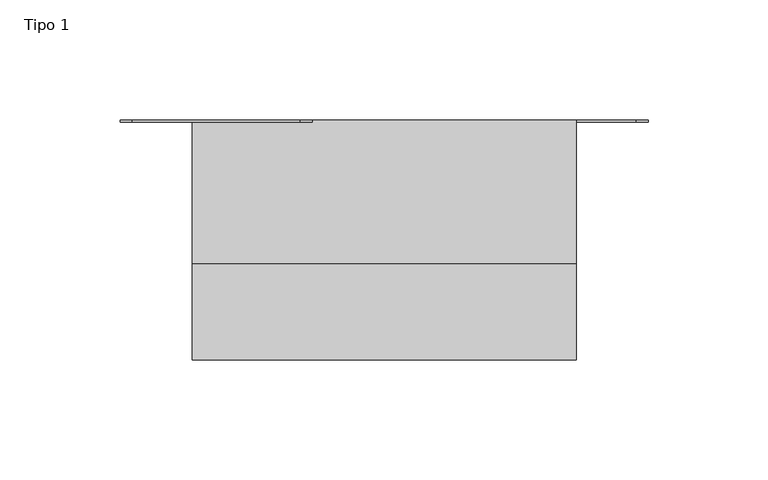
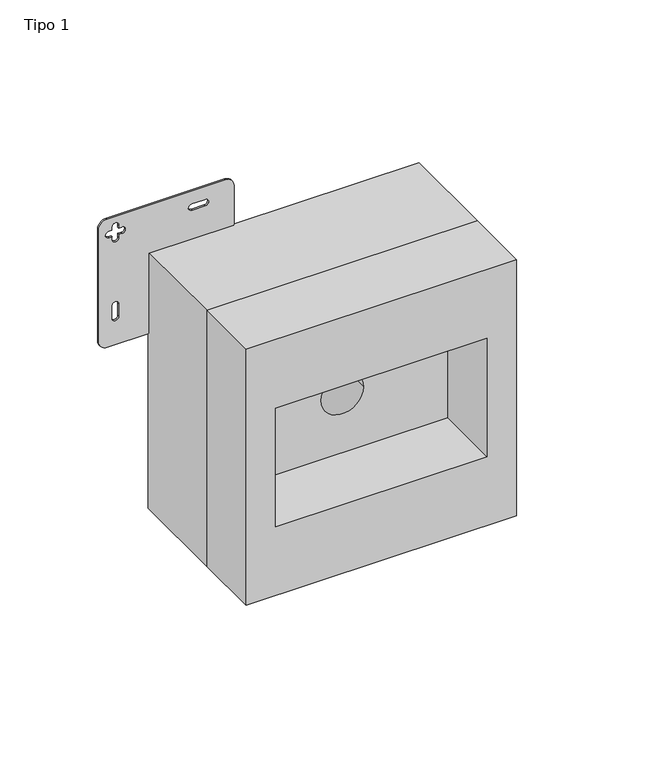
"""IFC4 building model written with IfcOpenShell, lengths in millimetres: proxy geometry, Zeus 504E : Tipo 1."""

import ifcopenshell
import ifcopenshell.guid

model = None  # the IFC model being written
_history = None  # IfcOwnerHistory: only IFC2X3 demands one
_inside = {}  # id of a spatial element -> (the spatial element, [elements in it])
_under = {}  # id of a project, library or spatial element -> (it, [spatial elements below it])
_declared = {}  # id of a project -> (the project, [libraries it declares])
_typed = {}  # id of a type object -> (the type object, [elements of that type])
_made_of = {}  # id of a material, layer set ... -> (it, [elements and type objects made of it])


def new_model(schema):
    """Start an empty IFC model of exactly this schema.

    Asked for "IFC4X3", IfcOpenShell would pick the latest addendum, in which some entities
    have other attributes; the version numbers below select the first issue.
    IFC2X3 requires an IfcOwnerHistory on every rooted entity: one is made here for all.
    """
    global model, _history
    if schema == "IFC4X3":
        model = ifcopenshell.file(schema_version=(4, 3, 0, 0))
    else:
        model = ifcopenshell.file(schema=schema)
    _inside.clear()
    _under.clear()
    _declared.clear()
    _typed.clear()
    _made_of.clear()
    _history = None
    if model.schema == "IFC2X3":
        org = make("IfcOrganization", Name="unknown")
        user = make(
            "IfcPersonAndOrganization",
            ThePerson=make("IfcPerson", FamilyName="unknown"),
            TheOrganization=org,
        )
        app = make(
            "IfcApplication",
            ApplicationDeveloper=org,
            Version="unknown",
            ApplicationFullName="unknown",
            ApplicationIdentifier="unknown",
        )
        _history = make(
            "IfcOwnerHistory",
            OwningUser=user,
            OwningApplication=app,
            ChangeAction="ADDED",
            CreationDate=0,
        )
    return model


def make(cls, **values):
    """One entity of the class cls with the attributes given. An attribute that is None is left unset."""
    return model.create_entity(
        cls, **{name: value for name, value in values.items() if value is not None}
    )


def rooted(cls, **values):
    """An entity with a GlobalId (a new one), such as an element, a storey or a relation."""
    return make(cls, GlobalId=ifcopenshell.guid.new(), OwnerHistory=_history, **values)


def si_unit(unit_type, name, prefix=None):
    """IfcSIUnit, for example si_unit("LENGTHUNIT", "METRE", prefix="MILLI")."""
    return make("IfcSIUnit", UnitType=unit_type, Prefix=prefix, Name=name)


def assignment(units):
    """IfcUnitAssignment: the units of a project."""
    return None if units is None else make("IfcUnitAssignment", Units=units)


def point(xyz):
    """IfcCartesianPoint."""
    return None if xyz is None else make("IfcCartesianPoint", Coordinates=xyz)


def direction(xyz):
    """IfcDirection."""
    return None if xyz is None else make("IfcDirection", DirectionRatios=xyz)


def frame(location, z_axis=None, x_axis=None):
    """IfcAxis2Placement3D, a coordinate frame: its origin and axes. An axis left out is left unset."""
    return make(
        "IfcAxis2Placement3D",
        Location=point(location),
        Axis=direction(z_axis),
        RefDirection=direction(x_axis),
    )


def frame_2d(location, x_axis=None):
    """IfcAxis2Placement2D, a coordinate frame in the plane: its origin and x axis."""
    return make(
        "IfcAxis2Placement2D", Location=point(location), RefDirection=direction(x_axis)
    )


def origin():
    """The frame at (0, 0, 0) with its axes left unset."""
    return frame((0.0, 0.0, 0.0))


def place(relative_to, where):
    """IfcLocalPlacement: puts the frame where relative to a parent placement (None: the world)."""
    return make(
        "IfcLocalPlacement", PlacementRelTo=relative_to, RelativePlacement=where
    )


def context(
    kind, dimensions, precision=None, world=None, true_north=None, identifier=None
):
    """IfcGeometricRepresentationContext, for example the 3D "Model" context."""
    return make(
        "IfcGeometricRepresentationContext",
        ContextIdentifier=identifier,
        ContextType=kind,
        CoordinateSpaceDimension=dimensions,
        Precision=precision,
        WorldCoordinateSystem=world,
        TrueNorth=true_north,
    )


def project(units=None, contexts=None):
    """IfcProject with its units and contexts."""
    return rooted(
        "IfcProject",
        Name="project",
        RepresentationContexts=contexts,
        UnitsInContext=assignment(units),
    )


def spatial(cls, under=None, at=None, **own):
    """A site, building, storey or space (cls), placed at a placement, below another one or the project."""
    s = rooted(cls, ObjectPlacement=at, **own)
    if under is not None:
        _under.setdefault(under.id(), (under, []))[1].append(s)
    return s


def polyline(points):
    """IfcPolyline through the points."""
    return make("IfcPolyline", Points=[point(p) for p in points])


def circle_curve(where, radius):
    """IfcCircle in the frame where."""
    return make("IfcCircle", Position=where, Radius=radius)


def trimmed(basis, trim1, trim2, sense, master):
    """IfcTrimmedCurve: the piece of a basis curve between two trims."""
    return make(
        "IfcTrimmedCurve",
        BasisCurve=basis,
        Trim1=trim1,
        Trim2=trim2,
        SenseAgreement=sense,
        MasterRepresentation=master,
    )


def segment(curve, same_sense, transition):
    """IfcCompositeCurveSegment."""
    return make(
        "IfcCompositeCurveSegment",
        Transition=transition,
        SameSense=same_sense,
        ParentCurve=curve,
    )


def composite_curve(segments, self_intersect=None):
    """IfcCompositeCurve: segments joined end to end."""
    return make("IfcCompositeCurve", Segments=segments, SelfIntersect=self_intersect)


def outline(outer, holes=None, kind="AREA"):
    """IfcArbitraryClosedProfileDef: a profile drawn as a closed curve; with holes, ...WithVoids."""
    if holes is None:
        return make("IfcArbitraryClosedProfileDef", ProfileType=kind, OuterCurve=outer)
    return make(
        "IfcArbitraryProfileDefWithVoids",
        ProfileType=kind,
        OuterCurve=outer,
        InnerCurves=holes,
    )


def extrude(swept, where, along, depth):
    """IfcExtrudedAreaSolid: the profile swept, set in the frame where, extruded along a direction by depth."""
    return make(
        "IfcExtrudedAreaSolid",
        SweptArea=swept,
        Position=where,
        ExtrudedDirection=direction(along),
        Depth=depth,
    )


def shape(context_of_items, identifier, shape_type, items):
    """IfcShapeRepresentation: the items that make up one representation, for example the "Body"."""
    return make(
        "IfcShapeRepresentation",
        ContextOfItems=context_of_items,
        RepresentationIdentifier=identifier,
        RepresentationType=shape_type,
        Items=items,
    )


def source(mapping_origin, context_of_items, identifier, shape_type, items):
    """IfcRepresentationMap: a shape defined once, which mapped items show again and again."""
    return make(
        "IfcRepresentationMap",
        MappingOrigin=mapping_origin,
        MappedRepresentation=shape(context_of_items, identifier, shape_type, items),
    )


def transform(
    local_origin,
    x_axis=None,
    y_axis=None,
    z_axis=None,
    scale=None,
    scale2=None,
    scale3=None,
    uniform=True,
):
    """IfcCartesianTransformationOperator3D, or its non-uniform kind. x_axis, y_axis, z_axis: its Axis1, 2, 3."""
    if uniform:
        return make(
            "IfcCartesianTransformationOperator3D",
            Axis1=direction(x_axis),
            Axis2=direction(y_axis),
            LocalOrigin=point(local_origin),
            Scale=scale,
            Axis3=direction(z_axis),
        )
    return make(
        "IfcCartesianTransformationOperator3DnonUniform",
        Axis1=direction(x_axis),
        Axis2=direction(y_axis),
        LocalOrigin=point(local_origin),
        Scale=scale,
        Axis3=direction(z_axis),
        Scale2=scale2,
        Scale3=scale3,
    )


def mapped(mapping_source, mapping_target):
    """IfcMappedItem: shows the shape of a source again, moved by a transform."""
    return make(
        "IfcMappedItem", MappingSource=mapping_source, MappingTarget=mapping_target
    )


def made_of(thing, what):
    """Note that an element or type object is made of a material, layer set ...; save() writes the relation."""
    if what is not None:
        _made_of.setdefault(what.id(), (what, []))[1].append(thing)
    return thing


def element(
    cls,
    number,
    at=None,
    inside=None,
    cuts=None,
    type_object=None,
    material=None,
    context=None,
    identifier="Body",
    shape_type=None,
    held_by="IfcProductDefinitionShape",
    body=None,
    shapes=None,
    **own,
):
    """One element of the class cls, such as IfcWall. Its Tag is "e" and its number.

    at: its placement. inside: the storey or other place that contains it. cuts: it is an
    opening in that element (IfcRelVoidsElement). A single representation is given by context,
    identifier, shape_type and body (its items); several are given by shapes. held_by: the class
    of the entity that holds the representations. save() writes the other relations.
    """
    e = rooted(cls, Tag="e%d" % number, ObjectPlacement=at, **own)
    if body is not None:
        shapes = [shape(context, identifier, shape_type, body)]
    if shapes is not None:
        e.Representation = make(held_by, Representations=shapes)
    if inside is not None:
        _inside.setdefault(inside.id(), (inside, []))[1].append(e)
    if cuts is not None:
        rooted(
            "IfcRelVoidsElement", RelatingBuildingElement=cuts, RelatedOpeningElement=e
        )
    if type_object is not None:
        _typed.setdefault(type_object.id(), (type_object, []))[1].append(e)
    return made_of(e, material)


def aggregate(whole, parts):
    """IfcRelAggregates: a whole, such as a stair, and the parts it consists of."""
    return rooted("IfcRelAggregates", RelatingObject=whole, RelatedObjects=parts)


def save(model, path):
    """Write the relations noted so far, then the file.

    IfcRelAggregates (storeys below a building ...), IfcRelContainedInSpatialStructure (elements
    in a storey), IfcRelDefinesByType, IfcRelAssociatesMaterial and IfcRelDeclares: one each for
    every whole, place, type object, material and project.
    """
    for whole, parts in _under.values():
        aggregate(whole, parts)
    for where, things in _inside.values():
        rooted(
            "IfcRelContainedInSpatialStructure",
            RelatedElements=things,
            RelatingStructure=where,
        )
    for kind, things in _typed.values():
        rooted("IfcRelDefinesByType", RelatedObjects=things, RelatingType=kind)
    for what, things in _made_of.values():
        rooted("IfcRelAssociatesMaterial", RelatedObjects=things, RelatingMaterial=what)
    for by, libraries in _declared.values():
        rooted("IfcRelDeclares", RelatingContext=by, RelatedDefinitions=libraries)
    model.write(path)


def plane_surface(at):
    """IfcPlane: the flat surface through the origin of the frame at, square to its z axis."""
    return make("IfcPlane", Position=at)


def revolved_surface(curve, axis_point, axis_direction):
    """IfcSurfaceOfRevolution: the curve turned about the line through axis_point along axis_direction."""
    return make(
        "IfcSurfaceOfRevolution",
        SweptCurve=make("IfcArbitraryOpenProfileDef", ProfileType="CURVE", Curve=curve),
        AxisPosition=make("IfcAxis1Placement", Location=point(axis_point), Axis=direction(axis_direction)),
    )


def advanced_brep(points, edges, surfaces, faces):
    """IfcAdvancedBrep: a solid bounded by faces that lie on surfaces and meet in shared edges.

    An edge is (start, end): straight between two places in points (the first is 0);
    or (start, end, curve); or (start, end, curve, False) where it runs against its curve.
    A face is (place in surfaces, loops), or (place, loops, False) where it looks against
    its surface's normal. A loop lists edges by number (the first is 1), with a minus sign
    where the edge is run from its end to its start. The first loop is the outer one.
    """
    corners = [point(p) for p in points]
    vertices = [make("IfcVertexPoint", VertexGeometry=c) for c in corners]
    made = []
    for start, end, *more in edges:
        made.append(
            make(
                "IfcEdgeCurve",
                EdgeStart=vertices[start],
                EdgeEnd=vertices[end],
                EdgeGeometry=more[0] if more else make("IfcPolyline", Points=[corners[start], corners[end]]),
                SameSense=more[1] if len(more) > 1 else True,
            )
        )
    hull = []
    for where, loops, *sense in faces:
        bounds = []
        for j, loop in enumerate(loops):
            ring = [make("IfcOrientedEdge", EdgeElement=made[abs(k) - 1], Orientation=k > 0) for k in loop]
            bounds.append(
                make(
                    "IfcFaceOuterBound" if j == 0 else "IfcFaceBound",
                    Bound=make("IfcEdgeLoop", EdgeList=ring),
                    Orientation=True,
                )
            )
        hull.append(make("IfcAdvancedFace", Bounds=bounds, FaceSurface=surfaces[where], SameSense=sense[0] if sense else True))
    return make("IfcAdvancedBrep", Outer=make("IfcClosedShell", CfsFaces=hull))


def tipo_1_560bc752(model_context):
    return source(origin(), model_context, "Body", "SolidModel", [
        extrude(outline(polyline([(789.7029033, 205.0), (789.7029033, 45.0), (629.7029033, 45.0), (629.7029033, 205.0), (789.7029033, 205.0)]), holes=[polyline([(746.7029033, 62.5), (746.7029033, 187.5), (672.7029033, 187.5), (672.7029033, 62.5), (746.7029033, 62.5)])]), frame((0.0, -175.0, 0.0), z_axis=(0.0, 1.0, 0.0), x_axis=(0.0, 0.0, 1.0)), (0.0, 0.0, 1.0), 40.0),
        advanced_brep(
        [(205.0, -135.0, 629.7029033), (205.0, -135.0, 789.7029033), (45.0, -135.0, 789.7029033), (45.0, -135.0, 629.7029033), (137.5, -135.0, 709.7029033), (112.5, -135.0, 709.7029033), (155.0, -75.0, 629.7029033), (45.0, -75.0, 629.7029033), (45.0, -75.0, 739.7029033), (70.2279221, -75.0, 739.7029033), (95.0, -75.0, 764.4749812), (95.0, -75.0, 789.7029033), (205.0, -75.0, 789.7029033), (205.0, -75.0, 679.7029033), (179.7720779, -75.0, 679.7029033), (155.0, -75.0, 654.9308254), (137.5, -75.0, 709.7029033), (112.5, -75.0, 709.7029033), (155.0, -76.0, 629.7029033), (205.0, -76.0, 629.7029033), (45.0, -76.0, 789.7029033), (45.0, -76.0, 739.7029033), (95.0, -76.0, 789.7029033), (205.0, -76.0, 679.7029033), (155.0, -76.0, 654.9308254), (179.7720779, -76.0, 679.7029033), (95.0, -76.0, 764.4749812), (70.2279221, -76.0, 739.7029033)],
        [
            (0, 1),
            (1, 2),
            (2, 3),
            (3, 0),
            (4, 5, circle_curve(frame((125.0, -135.0, 709.7029033), z_axis=(0.0, 1.0, 0.0), x_axis=(-1.0, 0.0, 0.0)), 12.5)),
            (5, 4, circle_curve(frame((125.0, -135.0, 709.7029033), z_axis=(0.0, 1.0, 0.0), x_axis=(-1.0, 0.0, 0.0)), 12.5)),
            (6, 7),
            (7, 8),
            (8, 9),
            (9, 10),
            (10, 11),
            (11, 12),
            (12, 13),
            (13, 14),
            (14, 15),
            (15, 6),
            (16, 17, circle_curve(frame((125.0, -75.0, 709.7029033), z_axis=(0.0, -1.0, 0.0), x_axis=(-1.0, 0.0, 0.0)), 12.5)),
            (17, 16, circle_curve(frame((125.0, -75.0, 709.7029033), z_axis=(0.0, -1.0, 0.0), x_axis=(-1.0, 0.0, 0.0)), 12.5)),
            (3, 7),
            (6, 18),
            (18, 19),
            (19, 0),
            (2, 20),
            (20, 21),
            (21, 8),
            (1, 12),
            (11, 22),
            (22, 20),
            (19, 23),
            (23, 13),
            (18, 24),
            (24, 25),
            (25, 23),
            (22, 26),
            (26, 27),
            (27, 21),
            (25, 14),
            (24, 15),
            (27, 9),
            (26, 10),
            (4, 16),
            (17, 5),
        ],
        [
            plane_surface(frame((205.0, -135.0, 629.7029033), z_axis=(0.0, -1.0, 0.0), x_axis=(0.0, 0.0, 1.0))),
            plane_surface(frame((205.0, -75.0, 629.7029033), z_axis=(0.0, 1.0, 0.0), x_axis=(0.0, 0.0, -1.0))),
            plane_surface(frame((45.0, -135.0, 629.7029033), z_axis=(0.0, 0.0, -1.0), x_axis=(0.0, 1.0, 0.0))),
            plane_surface(frame((45.0, -135.0, 789.7029033), z_axis=(-1.0, 0.0, 0.0), x_axis=(0.0, 1.0, 0.0))),
            plane_surface(frame((205.0, -135.0, 789.7029033), z_axis=(0.0, 0.0, 1.0), x_axis=(0.0, 1.0, 0.0))),
            plane_surface(frame((205.0, -135.0, 629.7029033), z_axis=(1.0, 0.0, 0.0), x_axis=(0.0, 1.0, 0.0))),
            plane_surface(frame((204.886039, -76.0, 629.7029033), z_axis=(0.0, 1.0, 0.0), x_axis=(1.0, 0.0, 0.0))),
            plane_surface(frame((204.886039, -76.0, 679.7029033), z_axis=(0.0, 0.0, -1.0), x_axis=(0.0, 1.0, 0.0))),
            plane_surface(frame((179.7720779, -76.0, 679.7029033), z_axis=(0.7071067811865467, 0.0, -0.7071067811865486), x_axis=(0.0, 1.0, 0.0))),
            plane_surface(frame((155.0, -76.0, 654.9308254), z_axis=(1.0, 0.0, 0.0), x_axis=(0.0, 1.0, 0.0))),
            plane_surface(frame((45.113961, -76.0, 739.7029033), z_axis=(0.0, 0.0, 1.0), x_axis=(0.0, 1.0, 0.0))),
            plane_surface(frame((70.2279221, -76.0, 739.7029033), z_axis=(-0.7071067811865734, 0.0, 0.7071067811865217), x_axis=(0.0, 1.0, 0.0))),
            plane_surface(frame((95.0, -76.0, 764.4749812), z_axis=(-1.0, 0.0, 0.0), x_axis=(0.0, 1.0, 0.0))),
            revolved_surface(polyline([(112.5, -75.0, 709.7029033), (112.5, -135.0, 709.7029033)]), (125.0, -75.0, 709.7029033), (0.0, 1.0, 0.0)),
        ],
        [
            (0, [[1, 2, 3, 4], [5, 6]]),
            (1, [[7, 8, 9, 10, 11, 12, 13, 14, 15, 16], [17, 18]]),
            (2, [[-4, 19, -7, 20, 21, 22]]),
            (3, [[-3, 23, 24, 25, -8, -19]]),
            (4, [[-2, 26, -12, 27, 28, -23]]),
            (5, [[-1, -22, 29, 30, -13, -26]]),
            (6, [[31, 32, 33, -29, -21]]),
            (6, [[34, 35, 36, -24, -28]]),
            (7, [[-33, 37, -14, -30]]),
            (8, [[-32, 38, -15, -37]]),
            (9, [[-31, -20, -16, -38]]),
            (10, [[-36, 39, -9, -25]]),
            (11, [[-35, 40, -10, -39]]),
            (12, [[-34, -27, -11, -40]]),
            (13, [[-5, 41, -18, 42]]),
            (13, [[-6, -42, -17, -41]]),
        ],
    ),
        extrude(outline(composite_curve([segment(polyline([(764.4749812, 95.0), (814.7029033, 95.0)]), True, "CONTINUOUS"), segment(trimmed(circle_curve(frame_2d((814.7029033, 90.0)), 5.0), [point((814.7029033, 95.0))], [point((819.7029033, 90.0))], False, "CARTESIAN"), True, "CONTINUOUS"), segment(polyline([(819.7029033, 90.0), (819.7029033, 20.0)]), True, "CONTINUOUS"), segment(trimmed(circle_curve(frame_2d((814.7029033, 20.0)), 5.0), [point((819.7029033, 20.0))], [point((814.7029033, 15.0))], False, "CARTESIAN"), True, "CONTINUOUS"), segment(polyline([(814.7029033, 15.0), (744.7029033, 15.0)]), True, "CONTINUOUS"), segment(trimmed(circle_curve(frame_2d((744.7029033, 20.0)), 5.0), [point((744.7029033, 15.0))], [point((739.7029033, 20.0))], False, "CARTESIAN"), True, "CONTINUOUS"), segment(polyline([(739.7029033, 20.0), (739.7029033, 70.2279221), (764.4749812, 95.0)]), True, "CONTINUOUS")], self_intersect=False), holes=[composite_curve([segment(trimmed(circle_curve(frame_2d((756.6526578, 25.0)), 1.9497544), [point((756.6526578, 26.9497544))], [point((756.6526578, 23.0502456))], True, "CARTESIAN"), True, "CONTINUOUS"), segment(polyline([(756.6526578, 23.0502456), (764.4516756, 23.0502456)]), True, "CONTINUOUS"), segment(trimmed(circle_curve(frame_2d((764.4516756, 25.0)), 1.9497544), [point((764.4516756, 23.0502456))], [point((764.4516756, 26.9497544))], True, "CARTESIAN"), True, "CONTINUOUS"), segment(polyline([(764.4516756, 26.9497544), (756.6526578, 26.9497544)]), True, "CONTINUOUS")], self_intersect=False), composite_curve([segment(trimmed(circle_curve(frame_2d((805.8033944, 25.0)), 1.9497544), [point((805.8033944, 26.9497544))], [point((805.8033944, 23.0502456))], True, "CARTESIAN"), True, "CONTINUOUS"), segment(polyline([(805.8033944, 23.0502456), (807.7531489, 23.0502456), (807.7531489, 21.1004911)]), True, "CONTINUOUS"), segment(trimmed(circle_curve(frame_2d((809.7029033, 21.1004911)), 1.9497544), [point((807.7531489, 21.1004911))], [point((811.6526578, 21.1004911))], True, "CARTESIAN"), True, "CONTINUOUS"), segment(polyline([(811.6526578, 21.1004911), (811.6526578, 23.0502456), (813.6024122, 23.0502456)]), True, "CONTINUOUS"), segment(trimmed(circle_curve(frame_2d((813.6024122, 25.0)), 1.9497544), [point((813.6024122, 23.0502456))], [point((813.6024122, 26.9497544))], True, "CARTESIAN"), True, "CONTINUOUS"), segment(polyline([(813.6024122, 26.9497544), (811.6526578, 26.9497544), (811.6526578, 28.8995089)]), True, "CONTINUOUS"), segment(trimmed(circle_curve(frame_2d((809.7029033, 28.8995089)), 1.9497544), [point((811.6526578, 28.8995089))], [point((807.7531489, 28.8995089))], True, "CARTESIAN"), True, "CONTINUOUS"), segment(polyline([(807.7531489, 28.8995089), (807.7531489, 26.9497544), (805.8033944, 26.9497544)]), True, "CONTINUOUS")], self_intersect=False), composite_curve([segment(trimmed(circle_curve(frame_2d((809.7029033, 70.2512278)), 1.9497544), [point((807.7531489, 70.2512278))], [point((811.6526578, 70.2512278))], True, "CARTESIAN"), True, "CONTINUOUS"), segment(polyline([(811.6526578, 70.2512278), (811.6526578, 78.0502456)]), True, "CONTINUOUS"), segment(trimmed(circle_curve(frame_2d((809.7029033, 78.0502456)), 1.9497544), [point((811.6526578, 78.0502456))], [point((807.7531489, 78.0502456))], True, "CARTESIAN"), True, "CONTINUOUS"), segment(polyline([(807.7531489, 78.0502456), (807.7531489, 70.2512278)]), True, "CONTINUOUS")], self_intersect=False)]), frame((0.0, -76.0, 0.0), z_axis=(0.0, 1.0, 0.0), x_axis=(0.0, 0.0, 1.0)), (0.0, 0.0, 1.0), 1.0),
        extrude(outline(composite_curve([segment(polyline([(654.9308254, 155.0), (604.7029033, 155.0)]), True, "CONTINUOUS"), segment(trimmed(circle_curve(frame_2d((604.7029033, 160.0)), 5.0), [point((604.7029033, 155.0))], [point((599.7029033, 160.0))], False, "CARTESIAN"), True, "CONTINUOUS"), segment(polyline([(599.7029033, 160.0), (599.7029033, 230.0)]), True, "CONTINUOUS"), segment(trimmed(circle_curve(frame_2d((604.7029033, 230.0)), 5.0), [point((599.7029033, 230.0))], [point((604.7029033, 235.0))], False, "CARTESIAN"), True, "CONTINUOUS"), segment(polyline([(604.7029033, 235.0), (674.7029033, 235.0)]), True, "CONTINUOUS"), segment(trimmed(circle_curve(frame_2d((674.7029033, 230.0)), 5.0), [point((674.7029033, 235.0))], [point((679.7029033, 230.0))], False, "CARTESIAN"), True, "CONTINUOUS"), segment(polyline([(679.7029033, 230.0), (679.7029033, 179.7720779), (654.9308254, 155.0)]), True, "CONTINUOUS")], self_intersect=False), holes=[composite_curve([segment(trimmed(circle_curve(frame_2d((662.7531489, 225.0)), 1.9497544), [point((662.7531489, 223.0502456))], [point((662.7531489, 226.9497544))], True, "CARTESIAN"), True, "CONTINUOUS"), segment(polyline([(662.7531489, 226.9497544), (654.9541311, 226.9497544)]), True, "CONTINUOUS"), segment(trimmed(circle_curve(frame_2d((654.9541311, 225.0)), 1.9497544), [point((654.9541311, 226.9497544))], [point((654.9541311, 223.0502456))], True, "CARTESIAN"), True, "CONTINUOUS"), segment(polyline([(654.9541311, 223.0502456), (662.7531489, 223.0502456)]), True, "CONTINUOUS")], self_intersect=False), composite_curve([segment(trimmed(circle_curve(frame_2d((609.7029033, 228.8995089)), 1.9497544), [point((611.6526578, 228.8995089))], [point((607.7531489, 228.8995089))], True, "CARTESIAN"), True, "CONTINUOUS"), segment(polyline([(607.7531489, 228.8995089), (607.7531489, 226.9497544), (605.8033944, 226.9497544)]), True, "CONTINUOUS"), segment(trimmed(circle_curve(frame_2d((605.8033944, 225.0)), 1.9497544), [point((605.8033944, 226.9497544))], [point((605.8033944, 223.0502456))], True, "CARTESIAN"), True, "CONTINUOUS"), segment(polyline([(605.8033944, 223.0502456), (607.7531489, 223.0502456), (607.7531489, 221.1004911)]), True, "CONTINUOUS"), segment(trimmed(circle_curve(frame_2d((609.7029033, 221.1004911)), 1.9497544), [point((607.7531489, 221.1004911))], [point((611.6526578, 221.1004911))], True, "CARTESIAN"), True, "CONTINUOUS"), segment(polyline([(611.6526578, 221.1004911), (611.6526578, 223.0502456), (613.6024122, 223.0502456)]), True, "CONTINUOUS"), segment(trimmed(circle_curve(frame_2d((613.6024122, 225.0)), 1.9497544), [point((613.6024122, 223.0502456))], [point((613.6024122, 226.9497544))], True, "CARTESIAN"), True, "CONTINUOUS"), segment(polyline([(613.6024122, 226.9497544), (611.6526578, 226.9497544), (611.6526578, 228.8995089)]), True, "CONTINUOUS")], self_intersect=False), composite_curve([segment(trimmed(circle_curve(frame_2d((609.7029033, 171.9497544)), 1.9497544), [point((607.7531489, 171.9497544))], [point((611.6526578, 171.9497544))], True, "CARTESIAN"), True, "CONTINUOUS"), segment(polyline([(611.6526578, 171.9497544), (611.6526578, 179.7487722)]), True, "CONTINUOUS"), segment(trimmed(circle_curve(frame_2d((609.7029033, 179.7487722)), 1.9497544), [point((611.6526578, 179.7487722))], [point((607.7531489, 179.7487722))], True, "CARTESIAN"), True, "CONTINUOUS"), segment(polyline([(607.7531489, 179.7487722), (607.7531489, 171.9497544)]), True, "CONTINUOUS")], self_intersect=False)]), frame((0.0, -76.0, 0.0), z_axis=(0.0, 1.0, 0.0), x_axis=(0.0, 0.0, 1.0)), (0.0, 0.0, 1.0), 1.0),
    ])


if __name__ == "__main__":
    model = new_model("IFC4")
    model_context = context("Model", 3, world=origin())
    ifc_project = project(units=[si_unit("LENGTHUNIT", "METRE", prefix="MILLI")], contexts=[model_context])
    site = spatial("IfcSite", under=ifc_project)
    building = spatial("IfcBuilding", under=site)
    placement = place(None, origin())
    tipo_1_shape = tipo_1_560bc752(model_context)
    element("IfcBuildingElementProxy", 1, Name="Zeus 504E : Tipo 1", ObjectType="Zeus 504E : Tipo 1", at=placement, inside=building, context=model_context, shape_type="MappedRepresentation", body=[
        mapped(tipo_1_shape, transform((0.0, 0.0, 0.0), x_axis=(1.0, 0.0, 0.0), y_axis=(0.0, 1.0, 0.0), z_axis=(0.0, 0.0, 1.0))),
    ])
    save(model, "model.ifc")
